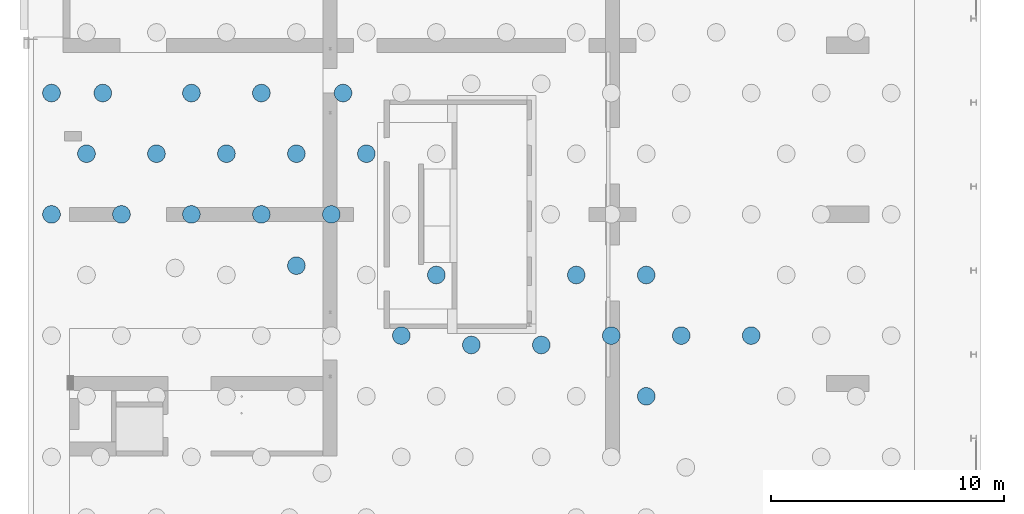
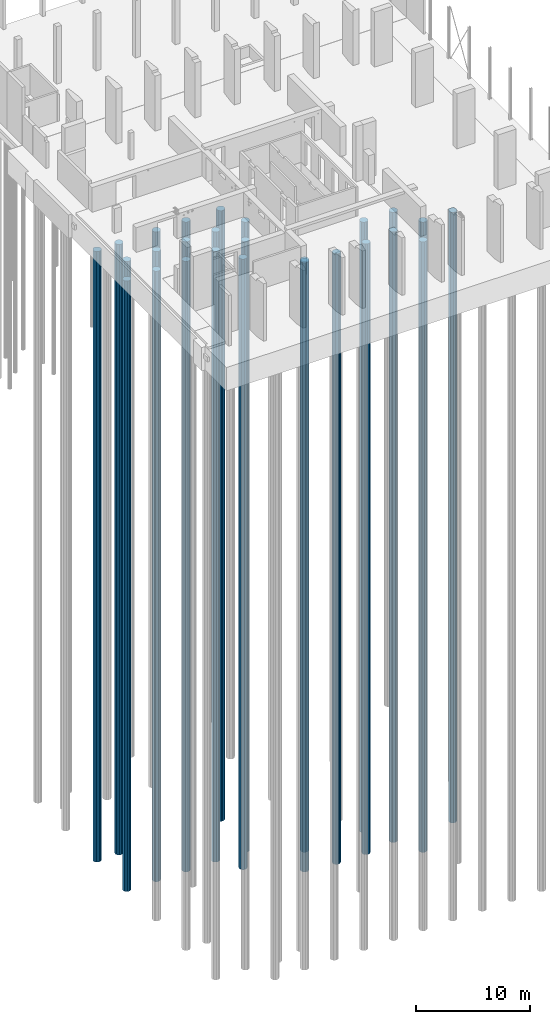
# One storey, part 3 of 26: 26 piles.
"""IFC2X3 building model written with IfcOpenShell, lengths in millimetres."""

from ifc_helpers import new_model, entity, si_unit, converted_unit, derived_unit, direction, frame, origin, place, context, subcontext, project, spatial, polyline, outline, extrude, material, element, save


model = new_model("IFC2X3")

# Units and contexts
model_context = context("Model", 3, precision=0.01, world=origin(), true_north=direction((6.12303176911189e-17, 1.0)))
body_context = subcontext(model_context, "Body", "Model", "MODEL_VIEW")
ifc_project = project(units=[si_unit("LENGTHUNIT", "METRE", prefix="MILLI"), si_unit("AREAUNIT", "SQUARE_METRE"), si_unit("VOLUMEUNIT", "CUBIC_METRE"), converted_unit("PLANEANGLEUNIT", "DEGREE", entity("IfcRatioMeasure", 0.0174532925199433), si_unit("PLANEANGLEUNIT", "RADIAN"), dimensions=[0, 0, 0, 0, 0, 0, 0]), si_unit("MASSUNIT", "GRAM", prefix="KILO"), derived_unit("MASSDENSITYUNIT", [(si_unit("MASSUNIT", "GRAM", prefix="KILO"), 1), (si_unit("LENGTHUNIT", "METRE"), -3)]), si_unit("TIMEUNIT", "SECOND"), si_unit("FREQUENCYUNIT", "HERTZ"), si_unit("THERMODYNAMICTEMPERATUREUNIT", "DEGREE_CELSIUS"), derived_unit("THERMALTRANSMITTANCEUNIT", [(si_unit("MASSUNIT", "GRAM", prefix="KILO"), 1), (si_unit("THERMODYNAMICTEMPERATUREUNIT", "KELVIN"), -1), (si_unit("TIMEUNIT", "SECOND"), -3)]), derived_unit("VOLUMETRICFLOWRATEUNIT", [(si_unit("LENGTHUNIT", "METRE"), 3), (si_unit("TIMEUNIT", "SECOND"), -1)]), si_unit("ELECTRICCURRENTUNIT", "AMPERE"), si_unit("ELECTRICVOLTAGEUNIT", "VOLT"), si_unit("POWERUNIT", "WATT"), si_unit("FORCEUNIT", "NEWTON", prefix="KILO"), si_unit("ILLUMINANCEUNIT", "LUX"), si_unit("LUMINOUSFLUXUNIT", "LUMEN"), si_unit("LUMINOUSINTENSITYUNIT", "CANDELA"), derived_unit("USERDEFINED", [(si_unit("MASSUNIT", "GRAM", prefix="KILO"), -1), (si_unit("LENGTHUNIT", "METRE"), -2), (si_unit("TIMEUNIT", "SECOND"), 3), (si_unit("LUMINOUSFLUXUNIT", "LUMEN"), 1)]), derived_unit("LINEARVELOCITYUNIT", [(si_unit("LENGTHUNIT", "METRE"), 1), (si_unit("TIMEUNIT", "SECOND"), -1)]), si_unit("PRESSUREUNIT", "PASCAL"), derived_unit("USERDEFINED", [(si_unit("LENGTHUNIT", "METRE"), -2), (si_unit("MASSUNIT", "GRAM", prefix="KILO"), 1), (si_unit("TIMEUNIT", "SECOND"), -2)])], contexts=[model_context])

# Site, building, storey
site_placement = place(None, origin())
site = spatial("IfcSite", under=ifc_project, at=site_placement, Name="Default", CompositionType="ELEMENT")
building_placement = place(site_placement, origin())
building = spatial("IfcBuilding", under=site, at=building_placement, Name="niet gebruiken", CompositionType="ELEMENT")
storey_placement = place(building_placement, origin())
storey = spatial("IfcBuildingStorey", under=building, at=storey_placement, Name="00 begane grond", CompositionType="ELEMENT", Elevation=0.0)

# Piles
ifc_material = material(Name="NLRS_f2_beton ihwg")
pile_1_placement = place(storey_placement, origin())
element("IfcPile", 1, at=pile_1_placement, inside=storey, material=ifc_material, Name="NLRS_17.12_SFO_TLB_funderingspaal grondverdringend_gen:Tubex_r762/950", ObjectType="NLRS_17.12_SFO_TLB_funderingspaal grondverdringend_gen:Tubex_r762/950", context=body_context, shape_type="SweptSolid", body=[
    extrude(outline(polyline([(-33.2063379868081, -379.550179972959), (33.2063379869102, -379.550179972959), (161.017557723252, -345.303266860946), (269.407683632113, -269.407683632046), (345.303266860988, -161.01755772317), (379.550179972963, -33.2063379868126), (368.017739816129, 98.6100561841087), (312.096928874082, 218.532622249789), (218.532622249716, 312.096928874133), (98.610056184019, 368.017739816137), (33.2063379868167, 379.550179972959), (-33.2063379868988, 379.550179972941), (-161.017557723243, 345.303266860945), (-269.4076836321, 269.407683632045), (-345.303266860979, 161.017557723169), (-379.550179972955, 33.2063379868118), (-368.01773981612, -98.6100561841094), (-312.096928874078, -218.532622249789), (-218.532622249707, -312.096928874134), (-98.6100561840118, -368.017739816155), (-33.2063379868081, -379.550179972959)])), frame((136250.0, 22700.0, -68100.0), z_axis=(0.0, 0.0, 1.0), x_axis=(0.087155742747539, -0.996194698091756, 0.0)), (0.0, 0.0, 1.0), 65380.0),
])
pile_2_placement = place(storey_placement, origin())
element("IfcPile", 2, at=pile_2_placement, inside=storey, material=ifc_material, Name="NLRS_17.12_SFO_TLB_funderingspaal grondverdringend_gen:Tubex_r762/950", ObjectType="NLRS_17.12_SFO_TLB_funderingspaal grondverdringend_gen:Tubex_r762/950", context=body_context, shape_type="SweptSolid", body=[
    extrude(outline(polyline([(-33.2063379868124, -379.550179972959), (33.2063379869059, -379.550179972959), (161.017557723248, -345.303266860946), (269.407683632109, -269.407683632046), (345.303266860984, -161.01755772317), (379.550179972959, -33.2063379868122), (368.017739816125, 98.610056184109), (312.096928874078, 218.532622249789), (218.532622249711, 312.096928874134), (98.6100561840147, 368.017739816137), (33.2063379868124, 379.550179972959), (-33.2063379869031, 379.550179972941), (-161.017557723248, 345.303266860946), (-269.407683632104, 269.407683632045), (-345.303266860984, 161.01755772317), (-379.550179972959, 33.2063379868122), (-368.017739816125, -98.610056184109), (-312.096928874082, -218.532622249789), (-218.532622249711, -312.096928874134), (-98.6100561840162, -368.017739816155), (-33.2063379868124, -379.550179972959)])), frame((132750.0, 22700.0, -68100.0), z_axis=(0.0, 0.0, 1.0), x_axis=(0.087155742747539, -0.996194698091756, 0.0)), (0.0, 0.0, 1.0), 65380.0),
])
pile_3_placement = place(storey_placement, origin())
element("IfcPile", 3, at=pile_3_placement, inside=storey, material=ifc_material, Name="NLRS_17.12_SFO_TLB_funderingspaal grondverdringend_gen:Tubex_r762/950", ObjectType="NLRS_17.12_SFO_TLB_funderingspaal grondverdringend_gen:Tubex_r762/950", context=body_context, shape_type="SweptSolid", body=[
    extrude(outline(polyline([(-33.2063379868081, -379.550179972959), (33.2063379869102, -379.550179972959), (161.017557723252, -345.303266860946), (269.407683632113, -269.407683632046), (345.303266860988, -161.01755772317), (379.550179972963, -33.2063379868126), (368.017739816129, 98.6100561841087), (312.096928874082, 218.532622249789), (218.532622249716, 312.096928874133), (98.610056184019, 368.017739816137), (33.2063379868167, 379.550179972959), (-33.2063379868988, 379.550179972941), (-161.017557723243, 345.303266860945), (-269.4076836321, 269.407683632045), (-345.303266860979, 161.017557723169), (-379.550179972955, 33.2063379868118), (-368.01773981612, -98.6100561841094), (-312.096928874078, -218.532622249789), (-218.532622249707, -312.096928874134), (-98.6100561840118, -368.017739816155), (-33.2063379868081, -379.550179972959)])), frame((129750.0, 22700.0, -68100.0), z_axis=(0.0, 0.0, 1.0), x_axis=(0.087155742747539, -0.996194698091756, 0.0)), (0.0, 0.0, 1.0), 65380.0),
])
pile_4_placement = place(storey_placement, origin())
element("IfcPile", 4, at=pile_4_placement, inside=storey, material=ifc_material, Name="NLRS_17.12_SFO_TLB_funderingspaal grondverdringend_gen:Tubex_r762/950", ObjectType="NLRS_17.12_SFO_TLB_funderingspaal grondverdringend_gen:Tubex_r762/950", context=body_context, shape_type="SweptSolid", body=[
    extrude(outline(polyline([(-33.2063379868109, -379.550179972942), (33.2063379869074, -379.550179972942), (161.017557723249, -345.303266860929), (269.40768363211, -269.407683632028), (345.303266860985, -161.017557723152), (379.550179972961, -33.2063379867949), (368.017739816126, 98.6100561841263), (312.096928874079, 218.532622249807), (218.532622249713, 312.096928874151), (98.6100561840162, 368.017739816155), (33.2063379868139, 379.550179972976), (-33.2063379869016, 379.550179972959), (-161.017557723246, 345.303266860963), (-269.407683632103, 269.407683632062), (-345.303266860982, 161.017557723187), (-379.550179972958, 33.2063379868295), (-368.017739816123, -98.6100561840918), (-312.09692887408, -218.532622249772), (-218.53262224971, -312.096928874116), (-98.6100561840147, -368.017739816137), (-33.2063379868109, -379.550179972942)])), frame((125950.0, 22700.0, -68100.0), z_axis=(0.0, 0.0, 1.0), x_axis=(0.087155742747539, -0.996194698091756, 0.0)), (0.0, 0.0, 1.0), 65380.0),
])
pile_5_placement = place(storey_placement, origin())
element("IfcPile", 5, at=pile_5_placement, inside=storey, material=ifc_material, Name="NLRS_17.12_SFO_TLB_funderingspaal grondverdringend_gen:Tubex_r762/950", ObjectType="NLRS_17.12_SFO_TLB_funderingspaal grondverdringend_gen:Tubex_r762/950", context=body_context, shape_type="SweptSolid", body=[
    extrude(outline(polyline([(-33.2063379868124, -379.550179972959), (33.2063379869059, -379.550179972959), (161.017557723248, -345.303266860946), (269.407683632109, -269.407683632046), (345.303266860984, -161.01755772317), (379.550179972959, -33.2063379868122), (368.017739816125, 98.610056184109), (312.096928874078, 218.532622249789), (218.532622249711, 312.096928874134), (98.6100561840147, 368.017739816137), (33.2063379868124, 379.550179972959), (-33.2063379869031, 379.550179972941), (-161.017557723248, 345.303266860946), (-269.407683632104, 269.407683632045), (-345.303266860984, 161.01755772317), (-379.550179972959, 33.2063379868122), (-368.017739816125, -98.610056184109), (-312.096928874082, -218.532622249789), (-218.532622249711, -312.096928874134), (-98.6100561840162, -368.017739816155), (-33.2063379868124, -379.550179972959)])), frame((123750.0, 22700.0, -68100.0), z_axis=(0.0, 0.0, 1.0), x_axis=(0.087155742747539, -0.996194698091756, 0.0)), (0.0, 0.0, 1.0), 65380.0),
])
pile_6_placement = place(storey_placement, origin())
element("IfcPile", 6, at=pile_6_placement, inside=storey, material=ifc_material, Name="NLRS_17.12_SFO_TLB_funderingspaal grondverdringend_gen:Tubex_r762/950", ObjectType="NLRS_17.12_SFO_TLB_funderingspaal grondverdringend_gen:Tubex_r762/950", context=body_context, shape_type="SweptSolid", body=[
    extrude(outline(polyline([(-33.2063379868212, -379.55017997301), (33.206337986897, -379.55017997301), (161.017557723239, -345.303266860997), (269.4076836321, -269.407683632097), (345.303266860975, -161.017557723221), (379.55017997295, -33.2063379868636), (368.017739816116, 98.6100561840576), (312.096928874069, 218.532622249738), (218.532622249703, 312.096928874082), (98.6100561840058, 368.017739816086), (33.2063379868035, 379.550179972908), (-33.2063379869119, 379.55017997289), (-161.017557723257, 345.303266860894), (-269.407683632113, 269.407683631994), (-345.303266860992, 161.017557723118), (-379.550179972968, 33.2063379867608), (-368.017739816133, -98.6100561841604), (-312.096928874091, -218.53262224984), (-218.53262224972, -312.096928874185), (-98.610056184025, -368.017739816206), (-33.2063379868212, -379.55017997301)])), frame((125250.0, 20100.0, -68100.0), z_axis=(0.0, 0.0, 1.0), x_axis=(0.087155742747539, -0.996194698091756, 0.0)), (0.0, 0.0, 1.0), 65380.0),
])
pile_7_placement = place(storey_placement, origin())
element("IfcPile", 7, at=pile_7_placement, inside=storey, material=ifc_material, Name="NLRS_17.12_SFO_TLB_funderingspaal grondverdringend_gen:Tubex_r762/950", ObjectType="NLRS_17.12_SFO_TLB_funderingspaal grondverdringend_gen:Tubex_r762/950", context=body_context, shape_type="SweptSolid", body=[
    extrude(outline(polyline([(-33.2063379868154, -379.550179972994), (33.2063379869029, -379.550179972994), (161.017557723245, -345.30326686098), (269.407683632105, -269.40768363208), (345.303266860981, -161.017557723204), (379.550179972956, -33.2063379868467), (368.017739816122, 98.6100561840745), (312.096928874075, 218.532622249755), (218.532622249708, 312.096928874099), (98.6100561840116, 368.017739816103), (33.2063379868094, 379.550179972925), (-33.2063379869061, 379.550179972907), (-161.017557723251, 345.303266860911), (-269.407683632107, 269.407683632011), (-345.303266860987, 161.017557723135), (-379.550179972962, 33.2063379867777), (-368.017739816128, -98.6100561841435), (-312.096928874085, -218.532622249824), (-218.532622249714, -312.096928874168), (-98.6100561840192, -368.017739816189), (-33.2063379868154, -379.550179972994)])), frame((131250.0, 20100.0, -68100.0), z_axis=(0.0, 0.0, 1.0), x_axis=(0.087155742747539, -0.996194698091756, 0.0)), (0.0, 0.0, 1.0), 65380.0),
])
pile_8_placement = place(storey_placement, origin())
element("IfcPile", 8, at=pile_8_placement, inside=storey, material=ifc_material, Name="NLRS_17.12_SFO_TLB_funderingspaal grondverdringend_gen:Tubex_r762/950", ObjectType="NLRS_17.12_SFO_TLB_funderingspaal grondverdringend_gen:Tubex_r762/950", context=body_context, shape_type="SweptSolid", body=[
    extrude(outline(polyline([(-33.2063379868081, -379.550179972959), (33.2063379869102, -379.550179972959), (161.017557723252, -345.303266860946), (269.407683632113, -269.407683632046), (345.303266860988, -161.01755772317), (379.550179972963, -33.2063379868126), (368.017739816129, 98.6100561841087), (312.096928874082, 218.532622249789), (218.532622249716, 312.096928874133), (98.610056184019, 368.017739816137), (33.2063379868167, 379.550179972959), (-33.2063379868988, 379.550179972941), (-161.017557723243, 345.303266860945), (-269.4076836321, 269.407683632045), (-345.303266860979, 161.017557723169), (-379.550179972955, 33.2063379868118), (-368.01773981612, -98.6100561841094), (-312.096928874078, -218.532622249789), (-218.532622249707, -312.096928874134), (-98.6100561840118, -368.017739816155), (-33.2063379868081, -379.550179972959)])), frame((134250.0, 20100.0, -68100.0), z_axis=(0.0, 0.0, 1.0), x_axis=(0.087155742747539, -0.996194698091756, 0.0)), (0.0, 0.0, 1.0), 65380.0),
])
pile_9_placement = place(storey_placement, origin())
element("IfcPile", 9, at=pile_9_placement, inside=storey, material=ifc_material, Name="NLRS_17.12_SFO_TLB_funderingspaal grondverdringend_gen:Tubex_r762/950", ObjectType="NLRS_17.12_SFO_TLB_funderingspaal grondverdringend_gen:Tubex_r762/950", context=body_context, shape_type="SweptSolid", body=[
    extrude(outline(polyline([(-33.2063379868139, -379.550179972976), (33.2063379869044, -379.550179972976), (161.017557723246, -345.303266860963), (269.407683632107, -269.407683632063), (345.303266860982, -161.017557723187), (379.550179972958, -33.2063379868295), (368.017739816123, 98.6100561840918), (312.096928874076, 218.532622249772), (218.53262224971, 312.096928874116), (98.6100561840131, 368.01773981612), (33.2063379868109, 379.550179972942), (-33.2063379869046, 379.550179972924), (-161.017557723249, 345.303266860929), (-269.407683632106, 269.407683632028), (-345.303266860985, 161.017557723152), (-379.550179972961, 33.2063379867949), (-368.017739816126, -98.6100561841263), (-312.096928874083, -218.532622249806), (-218.532622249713, -312.096928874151), (-98.6100561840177, -368.017739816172), (-33.2063379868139, -379.550179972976)])), frame((137250.0, 20100.0, -68100.0), z_axis=(0.0, 0.0, 1.0), x_axis=(0.087155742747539, -0.996194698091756, 0.0)), (0.0, 0.0, 1.0), 65380.0),
])
pile_10_placement = place(storey_placement, origin())
element("IfcPile", 10, at=pile_10_placement, inside=storey, material=ifc_material, Name="NLRS_17.12_SFO_TLB_funderingspaal grondverdringend_gen:Tubex_r762/950", ObjectType="NLRS_17.12_SFO_TLB_funderingspaal grondverdringend_gen:Tubex_r762/950", context=body_context, shape_type="SweptSolid", body=[
    extrude(outline(polyline([(-33.2063379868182, -379.550179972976), (33.2063379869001, -379.550179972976), (161.017557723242, -345.303266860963), (269.407683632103, -269.407683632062), (345.303266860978, -161.017557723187), (379.550179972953, -33.2063379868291), (368.017739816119, 98.6100561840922), (312.096928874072, 218.532622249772), (218.532622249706, 312.096928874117), (98.6100561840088, 368.01773981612), (33.2063379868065, 379.550179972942), (-33.2063379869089, 379.550179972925), (-161.017557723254, 345.303266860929), (-269.40768363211, 269.407683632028), (-345.303266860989, 161.017557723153), (-379.550179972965, 33.2063379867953), (-368.01773981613, -98.6100561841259), (-312.096928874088, -218.532622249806), (-218.532622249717, -312.09692887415), (-98.610056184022, -368.017739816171), (-33.2063379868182, -379.550179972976)])), frame((128250.0, 20100.0, -68100.0), z_axis=(0.0, 0.0, 1.0), x_axis=(0.087155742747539, -0.996194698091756, 0.0)), (0.0, 0.0, 1.0), 65380.0),
])
pile_11_placement = place(storey_placement, origin())
element("IfcPile", 11, at=pile_11_placement, inside=storey, material=ifc_material, Name="NLRS_17.12_SFO_TLB_funderingspaal grondverdringend_gen:Tubex_r762/950", ObjectType="NLRS_17.12_SFO_TLB_funderingspaal grondverdringend_gen:Tubex_r762/950", context=body_context, shape_type="SweptSolid", body=[
    extrude(outline(polyline([(-33.2063379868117, -379.550179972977), (33.2063379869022, -379.550179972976), (161.017557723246, -345.303266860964), (269.407683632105, -269.407683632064), (345.303266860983, -161.017557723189), (379.55017997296, -33.2063379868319), (368.017739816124, 98.6100561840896), (312.096928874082, 218.53262224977), (218.532622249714, 312.096928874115), (98.6100561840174, 368.017739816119), (33.2063379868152, 379.550179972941), (-33.2063379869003, 379.550179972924), (-161.017557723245, 345.303266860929), (-269.407683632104, 269.407683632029), (-345.30326686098, 161.017557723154), (-379.550179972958, 33.206337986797), (-368.017739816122, -98.6100561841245), (-312.09692887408, -218.532622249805), (-218.532622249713, -312.09692887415), (-98.6100561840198, -368.017739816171), (-33.2063379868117, -379.550179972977)])), frame((135750.0, 17500.0, -68100.0), z_axis=(0.0, 0.0, 1.0), x_axis=(0.0871557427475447, -0.996194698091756, 0.0)), (0.0, 0.0, 1.0), 65380.0),
])
pile_12_placement = place(storey_placement, origin())
element("IfcPile", 12, at=pile_12_placement, inside=storey, material=ifc_material, Name="NLRS_17.12_SFO_TLB_funderingspaal grondverdringend_gen:Tubex_r762/950", ObjectType="NLRS_17.12_SFO_TLB_funderingspaal grondverdringend_gen:Tubex_r762/950", context=body_context, shape_type="SweptSolid", body=[
    extrude(outline(polyline([(-33.2063379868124, -379.550179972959), (33.2063379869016, -379.550179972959), (161.017557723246, -345.303266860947), (269.407683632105, -269.407683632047), (345.303266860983, -161.017557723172), (379.550179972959, -33.2063379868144), (368.017739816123, 98.6100561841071), (312.096928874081, 218.532622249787), (218.532622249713, 312.096928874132), (98.6100561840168, 368.017739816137), (33.2063379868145, 379.550179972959), (-33.2063379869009, 379.550179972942), (-161.017557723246, 345.303266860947), (-269.407683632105, 269.407683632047), (-345.30326686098, 161.017557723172), (-379.550179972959, 33.2063379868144), (-368.017739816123, -98.6100561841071), (-312.096928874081, -218.532622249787), (-218.532622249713, -312.096928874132), (-98.6100561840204, -368.017739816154), (-33.2063379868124, -379.550179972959)])), frame((132750.0, 17500.0, -68100.0), z_axis=(0.0, 0.0, 1.0), x_axis=(0.0871557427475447, -0.996194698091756, 0.0)), (0.0, 0.0, 1.0), 65380.0),
])
pile_13_placement = place(storey_placement, origin())
element("IfcPile", 13, at=pile_13_placement, inside=storey, material=ifc_material, Name="NLRS_17.12_SFO_TLB_funderingspaal grondverdringend_gen:Tubex_r762/950", ObjectType="NLRS_17.12_SFO_TLB_funderingspaal grondverdringend_gen:Tubex_r762/950", context=body_context, shape_type="SweptSolid", body=[
    extrude(outline(polyline([(-33.2063379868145, -379.550179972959), (33.2063379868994, -379.550179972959), (161.017557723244, -345.303266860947), (269.407683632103, -269.407683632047), (345.30326686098, -161.017557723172), (379.550179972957, -33.2063379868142), (368.017739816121, 98.6100561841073), (312.096928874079, 218.532622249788), (218.532622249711, 312.096928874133), (98.6100561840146, 368.017739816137), (33.2063379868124, 379.550179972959), (-33.2063379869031, 379.550179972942), (-161.017557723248, 345.303266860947), (-269.407683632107, 269.407683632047), (-345.303266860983, 161.017557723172), (-379.550179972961, 33.2063379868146), (-368.017739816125, -98.6100561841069), (-312.096928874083, -218.532622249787), (-218.532622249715, -312.096928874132), (-98.6100561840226, -368.017739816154), (-33.2063379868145, -379.550179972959)])), frame((129750.0, 17500.0, -68100.0), z_axis=(0.0, 0.0, 1.0), x_axis=(0.0871557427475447, -0.996194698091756, 0.0)), (0.0, 0.0, 1.0), 65380.0),
])
pile_14_placement = place(storey_placement, origin())
element("IfcPile", 14, at=pile_14_placement, inside=storey, material=ifc_material, Name="NLRS_17.12_SFO_TLB_funderingspaal grondverdringend_gen:Tubex_r762/950", ObjectType="NLRS_17.12_SFO_TLB_funderingspaal grondverdringend_gen:Tubex_r762/950", context=body_context, shape_type="SweptSolid", body=[
    extrude(outline(polyline([(-33.2063379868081, -379.550179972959), (33.2063379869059, -379.550179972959), (161.01755772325, -345.303266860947), (269.407683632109, -269.407683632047), (345.303266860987, -161.017557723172), (379.550179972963, -33.2063379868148), (368.017739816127, 98.6100561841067), (312.096928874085, 218.532622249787), (218.532622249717, 312.096928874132), (98.610056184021, 368.017739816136), (33.2063379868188, 379.550179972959), (-33.2063379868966, 379.550179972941), (-161.017557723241, 345.303266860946), (-269.4076836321, 269.407683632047), (-345.303266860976, 161.017557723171), (-379.550179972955, 33.206337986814), (-368.017739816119, -98.6100561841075), (-312.096928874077, -218.532622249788), (-218.532622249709, -312.096928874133), (-98.6100561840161, -368.017739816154), (-33.2063379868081, -379.550179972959)])), frame((126750.0, 17500.0, -68100.0), z_axis=(0.0, 0.0, 1.0), x_axis=(0.0871557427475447, -0.996194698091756, 0.0)), (0.0, 0.0, 1.0), 65380.0),
])
pile_15_placement = place(storey_placement, origin())
element("IfcPile", 15, at=pile_15_placement, inside=storey, material=ifc_material, Name="NLRS_17.12_SFO_TLB_funderingspaal grondverdringend_gen:Tubex_r762/950", ObjectType="NLRS_17.12_SFO_TLB_funderingspaal grondverdringend_gen:Tubex_r762/950", context=body_context, shape_type="SweptSolid", body=[
    extrude(outline(polyline([(-33.2063379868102, -379.550179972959), (33.2063379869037, -379.550179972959), (161.017557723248, -345.303266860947), (269.407683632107, -269.407683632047), (345.303266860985, -161.017557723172), (379.550179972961, -33.2063379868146), (368.017739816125, 98.6100561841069), (312.096928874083, 218.532622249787), (218.532622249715, 312.096928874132), (98.6100561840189, 368.017739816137), (33.2063379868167, 379.550179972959), (-33.2063379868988, 379.550179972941), (-161.017557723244, 345.303266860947), (-269.407683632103, 269.407683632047), (-345.303266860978, 161.017557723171), (-379.550179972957, 33.2063379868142), (-368.017739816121, -98.6100561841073), (-312.096928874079, -218.532622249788), (-218.532622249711, -312.096928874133), (-98.6100561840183, -368.017739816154), (-33.2063379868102, -379.550179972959)])), frame((123750.0, 17500.0, -68100.0), z_axis=(0.0, 0.0, 1.0), x_axis=(0.0871557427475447, -0.996194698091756, 0.0)), (0.0, 0.0, 1.0), 65380.0),
])
pile_16_placement = place(storey_placement, origin())
element("IfcPile", 16, at=pile_16_placement, inside=storey, material=ifc_material, Name="NLRS_17.12_SFO_TLB_funderingspaal grondverdringend_gen:Tubex_r762/950", ObjectType="NLRS_17.12_SFO_TLB_funderingspaal grondverdringend_gen:Tubex_r762/950", context=body_context, shape_type="SweptSolid", body=[
    extrude(outline(polyline([(-33.2063379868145, -379.550179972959), (33.2063379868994, -379.550179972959), (161.017557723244, -345.303266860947), (269.407683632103, -269.407683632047), (345.30326686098, -161.017557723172), (379.550179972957, -33.2063379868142), (368.017739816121, 98.6100561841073), (312.096928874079, 218.532622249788), (218.532622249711, 312.096928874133), (98.6100561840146, 368.017739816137), (33.2063379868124, 379.550179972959), (-33.2063379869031, 379.550179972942), (-161.017557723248, 345.303266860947), (-269.407683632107, 269.407683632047), (-345.303266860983, 161.017557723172), (-379.550179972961, 33.2063379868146), (-368.017739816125, -98.6100561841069), (-312.096928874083, -218.532622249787), (-218.532622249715, -312.096928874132), (-98.6100561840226, -368.017739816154), (-33.2063379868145, -379.550179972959)])), frame((134250.0, 15300.0, -68100.0), z_axis=(0.0, 0.0, 1.0), x_axis=(0.0871557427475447, -0.996194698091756, 0.0)), (0.0, 0.0, 1.0), 65380.0),
])
pile_17_placement = place(storey_placement, origin())
element("IfcPile", 17, at=pile_17_placement, inside=storey, material=ifc_material, Name="NLRS_17.12_SFO_TLB_funderingspaal grondverdringend_gen:Tubex_r762/950", ObjectType="NLRS_17.12_SFO_TLB_funderingspaal grondverdringend_gen:Tubex_r762/950", context=body_context, shape_type="SweptSolid", body=[
    extrude(outline(polyline([(-33.2063379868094, -379.550179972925), (33.2063379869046, -379.550179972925), (161.017557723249, -345.303266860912), (269.407683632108, -269.407683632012), (345.303266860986, -161.017557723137), (379.550179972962, -33.2063379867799), (368.017739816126, 98.6100561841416), (312.096928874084, 218.532622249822), (218.532622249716, 312.096928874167), (98.6100561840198, 368.017739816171), (33.2063379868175, 379.550179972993), (-33.2063379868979, 379.550179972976), (-161.017557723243, 345.303266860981), (-269.407683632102, 269.407683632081), (-345.303266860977, 161.017557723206), (-379.550179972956, 33.206337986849), (-368.01773981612, -98.6100561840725), (-312.096928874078, -218.532622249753), (-218.53262224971, -312.096928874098), (-98.6100561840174, -368.017739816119), (-33.2063379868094, -379.550179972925)])), frame((140250.0, 14900.0, -68100.0), z_axis=(0.0, 0.0, 1.0), x_axis=(0.0871557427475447, -0.996194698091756, 0.0)), (0.0, 0.0, 1.0), 63130.0),
])
pile_18_placement = place(storey_placement, origin())
element("IfcPile", 18, at=pile_18_placement, inside=storey, material=ifc_material, Name="NLRS_17.12_SFO_TLB_funderingspaal grondverdringend_gen:Tubex_r762/950", ObjectType="NLRS_17.12_SFO_TLB_funderingspaal grondverdringend_gen:Tubex_r762/950", context=body_context, shape_type="SweptSolid", body=[
    extrude(outline(polyline([(-33.2063379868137, -379.550179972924), (33.2063379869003, -379.550179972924), (161.017557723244, -345.303266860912), (269.407683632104, -269.407683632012), (345.303266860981, -161.017557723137), (379.550179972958, -33.2063379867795), (368.017739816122, 98.610056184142), (312.09692887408, 218.532622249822), (218.532622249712, 312.096928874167), (98.6100561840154, 368.017739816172), (33.2063379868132, 379.550179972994), (-33.2063379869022, 379.550179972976), (-161.017557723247, 345.303266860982), (-269.407683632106, 269.407683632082), (-345.303266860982, 161.017557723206), (-379.55017997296, 33.2063379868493), (-368.017739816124, -98.6100561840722), (-312.096928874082, -218.532622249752), (-218.532622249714, -312.096928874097), (-98.6100561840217, -368.017739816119), (-33.2063379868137, -379.550179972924)])), frame((146250.0, 14900.0, -68100.0), z_axis=(0.0, 0.0, 1.0), x_axis=(0.0871557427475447, -0.996194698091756, 0.0)), (0.0, 0.0, 1.0), 65380.0),
])
pile_19_placement = place(storey_placement, origin())
element("IfcPile", 19, at=pile_19_placement, inside=storey, material=ifc_material, Name="NLRS_17.12_SFO_TLB_funderingspaal grondverdringend_gen:Tubex_r762/950", ObjectType="NLRS_17.12_SFO_TLB_funderingspaal grondverdringend_gen:Tubex_r762/950", context=body_context, shape_type="SweptSolid", body=[
    extrude(outline(polyline([(-33.2063379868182, -379.550179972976), (33.2063379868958, -379.550179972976), (161.01755772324, -345.303266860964), (269.407683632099, -269.407683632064), (345.303266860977, -161.017557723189), (379.550179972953, -33.2063379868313), (368.017739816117, 98.6100561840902), (312.096928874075, 218.53262224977), (218.532622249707, 312.096928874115), (98.6100561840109, 368.01773981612), (33.2063379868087, 379.550179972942), (-33.2063379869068, 379.550179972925), (-161.017557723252, 345.30326686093), (-269.407683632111, 269.40768363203), (-345.303266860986, 161.017557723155), (-379.550179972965, 33.2063379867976), (-368.017739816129, -98.610056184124), (-312.096928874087, -218.532622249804), (-218.532622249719, -312.096928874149), (-98.6100561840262, -368.017739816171), (-33.2063379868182, -379.550179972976)])), frame((149250.0, 14900.0, -68100.0), z_axis=(0.0, 0.0, 1.0), x_axis=(0.0871557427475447, -0.996194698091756, 0.0)), (0.0, 0.0, 1.0), 65380.0),
])
pile_20_placement = place(storey_placement, origin())
element("IfcPile", 20, at=pile_20_placement, inside=storey, material=ifc_material, Name="NLRS_17.12_SFO_TLB_funderingspaal grondverdringend_gen:Tubex_r762/950", ObjectType="NLRS_17.12_SFO_TLB_funderingspaal grondverdringend_gen:Tubex_r762/950", context=body_context, shape_type="SweptSolid", body=[
    extrude(outline(polyline([(-33.2063379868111, -379.550179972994), (33.2063379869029, -379.550179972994), (161.017557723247, -345.303266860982), (269.407683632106, -269.407683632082), (345.303266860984, -161.017557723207), (379.55017997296, -33.2063379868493), (368.017739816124, 98.6100561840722), (312.096928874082, 218.532622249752), (218.532622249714, 312.096928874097), (98.610056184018, 368.017739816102), (33.2063379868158, 379.550179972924), (-33.2063379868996, 379.550179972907), (-161.017557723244, 345.303266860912), (-269.407683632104, 269.407683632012), (-345.303266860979, 161.017557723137), (-379.550179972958, 33.2063379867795), (-368.017739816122, -98.610056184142), (-312.09692887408, -218.532622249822), (-218.532622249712, -312.096928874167), (-98.6100561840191, -368.017739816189), (-33.2063379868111, -379.550179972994)])), frame((153750.0, 12300.0, -68100.0), z_axis=(0.0, 0.0, 1.0), x_axis=(0.0871557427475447, -0.996194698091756, 0.0)), (0.0, 0.0, 1.0), 65380.0),
])
pile_21_placement = place(storey_placement, origin())
element("IfcPile", 21, at=pile_21_placement, inside=storey, material=ifc_material, Name="NLRS_17.12_SFO_TLB_funderingspaal grondverdringend_gen:Tubex_r762/950", ObjectType="NLRS_17.12_SFO_TLB_funderingspaal grondverdringend_gen:Tubex_r762/950", context=body_context, shape_type="SweptSolid", body=[
    extrude(outline(polyline([(-33.2063379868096, -379.550179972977), (33.2063379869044, -379.550179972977), (161.017557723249, -345.303266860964), (269.407683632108, -269.407683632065), (345.303266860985, -161.017557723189), (379.550179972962, -33.2063379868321), (368.017739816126, 98.6100561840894), (312.096928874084, 218.53262224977), (218.532622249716, 312.096928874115), (98.6100561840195, 368.017739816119), (33.2063379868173, 379.550179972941), (-33.2063379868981, 379.550179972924), (-161.017557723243, 345.303266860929), (-269.407683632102, 269.407683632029), (-345.303266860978, 161.017557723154), (-379.550179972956, 33.2063379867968), (-368.01773981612, -98.6100561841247), (-312.096928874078, -218.532622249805), (-218.53262224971, -312.09692887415), (-98.6100561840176, -368.017739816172), (-33.2063379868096, -379.550179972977)])), frame((150750.0, 12300.0, -68100.0), z_axis=(0.0, 0.0, 1.0), x_axis=(0.0871557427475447, -0.996194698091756, 0.0)), (0.0, 0.0, 1.0), 65380.0),
])
pile_22_placement = place(storey_placement, origin())
element("IfcPile", 22, at=pile_22_placement, inside=storey, material=ifc_material, Name="NLRS_17.12_SFO_TLB_funderingspaal grondverdringend_gen:Tubex_r762/950", ObjectType="NLRS_17.12_SFO_TLB_funderingspaal grondverdringend_gen:Tubex_r762/950", context=body_context, shape_type="SweptSolid", body=[
    extrude(outline(polyline([(-33.2063379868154, -379.550179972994), (33.2063379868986, -379.550179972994), (161.017557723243, -345.303266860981), (269.407683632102, -269.407683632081), (345.30326686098, -161.017557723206), (379.550179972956, -33.206337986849), (368.01773981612, 98.6100561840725), (312.096928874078, 218.532622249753), (218.53262224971, 312.096928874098), (98.6100561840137, 368.017739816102), (33.2063379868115, 379.550179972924), (-33.206337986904, 379.550179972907), (-161.017557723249, 345.303266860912), (-269.407683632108, 269.407683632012), (-345.303266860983, 161.017557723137), (-379.550179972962, 33.2063379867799), (-368.017739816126, -98.6100561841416), (-312.096928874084, -218.532622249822), (-218.532622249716, -312.096928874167), (-98.6100561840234, -368.017739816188), (-33.2063379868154, -379.550179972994)])), frame((147750.0, 12300.0, -68100.0), z_axis=(0.0, 0.0, 1.0), x_axis=(0.0871557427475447, -0.996194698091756, 0.0)), (0.0, 0.0, 1.0), 65380.0),
])
pile_23_placement = place(storey_placement, origin())
element("IfcPile", 23, at=pile_23_placement, inside=storey, material=ifc_material, Name="NLRS_17.12_SFO_TLB_funderingspaal grondverdringend_gen:Tubex_r762/950", ObjectType="NLRS_17.12_SFO_TLB_funderingspaal grondverdringend_gen:Tubex_r762/950", context=body_context, shape_type="SweptSolid", body=[
    extrude(outline(polyline([(-33.2063379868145, -379.550179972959), (33.2063379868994, -379.550179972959), (161.017557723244, -345.303266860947), (269.407683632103, -269.407683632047), (345.30326686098, -161.017557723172), (379.550179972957, -33.2063379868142), (368.017739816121, 98.6100561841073), (312.096928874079, 218.532622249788), (218.532622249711, 312.096928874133), (98.6100561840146, 368.017739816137), (33.2063379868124, 379.550179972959), (-33.2063379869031, 379.550179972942), (-161.017557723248, 345.303266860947), (-269.407683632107, 269.407683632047), (-345.303266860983, 161.017557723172), (-379.550179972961, 33.2063379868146), (-368.017739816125, -98.6100561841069), (-312.096928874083, -218.532622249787), (-218.532622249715, -312.096928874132), (-98.6100561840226, -368.017739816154), (-33.2063379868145, -379.550179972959)])), frame((144750.0, 11900.0, -68100.0), z_axis=(0.0, 0.0, 1.0), x_axis=(0.0871557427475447, -0.996194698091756, 0.0)), (0.0, 0.0, 1.0), 65380.0),
])
pile_24_placement = place(storey_placement, origin())
element("IfcPile", 24, at=pile_24_placement, inside=storey, material=ifc_material, Name="NLRS_17.12_SFO_TLB_funderingspaal grondverdringend_gen:Tubex_r762/950", ObjectType="NLRS_17.12_SFO_TLB_funderingspaal grondverdringend_gen:Tubex_r762/950", context=body_context, shape_type="SweptSolid", body=[
    extrude(outline(polyline([(-33.2063379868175, -379.550179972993), (33.2063379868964, -379.550179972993), (161.017557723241, -345.303266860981), (269.4076836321, -269.407683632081), (345.303266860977, -161.017557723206), (379.550179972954, -33.2063379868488), (368.017739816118, 98.6100561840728), (312.096928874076, 218.532622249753), (218.532622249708, 312.096928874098), (98.6100561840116, 368.017739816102), (33.2063379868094, 379.550179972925), (-33.2063379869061, 379.550179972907), (-161.017557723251, 345.303266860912), (-269.40768363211, 269.407683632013), (-345.303266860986, 161.017557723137), (-379.550179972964, 33.2063379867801), (-368.017739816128, -98.6100561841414), (-312.096928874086, -218.532622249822), (-218.532622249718, -312.096928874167), (-98.6100561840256, -368.017739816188), (-33.2063379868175, -379.550179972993)])), frame((141750.0, 11900.0, -68100.0), z_axis=(0.0, 0.0, 1.0), x_axis=(0.0871557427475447, -0.996194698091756, 0.0)), (0.0, 0.0, 1.0), 65380.0),
])
pile_25_placement = place(storey_placement, origin())
element("IfcPile", 25, at=pile_25_placement, inside=storey, material=ifc_material, Name="NLRS_17.12_SFO_TLB_funderingspaal grondverdringend_gen:Tubex_r762/950", ObjectType="NLRS_17.12_SFO_TLB_funderingspaal grondverdringend_gen:Tubex_r762/950", context=body_context, shape_type="SweptSolid", body=[
    extrude(outline(polyline([(-33.2063379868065, -379.550179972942), (33.2063379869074, -379.550179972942), (161.017557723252, -345.30326686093), (269.407683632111, -269.40768363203), (345.303266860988, -161.017557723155), (379.550179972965, -33.2063379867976), (368.017739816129, 98.610056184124), (312.096928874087, 218.532622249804), (218.532622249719, 312.096928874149), (98.6100561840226, 368.017739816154), (33.2063379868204, 379.550179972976), (-33.2063379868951, 379.550179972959), (-161.01755772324, 345.303266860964), (-269.407683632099, 269.407683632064), (-345.303266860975, 161.017557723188), (-379.550179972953, 33.2063379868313), (-368.017739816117, -98.6100561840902), (-312.096928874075, -218.53262224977), (-218.532622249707, -312.096928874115), (-98.6100561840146, -368.017739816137), (-33.2063379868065, -379.550179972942)])), frame((138750.0, 12300.0, -68100.0), z_axis=(0.0, 0.0, 1.0), x_axis=(0.0871557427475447, -0.996194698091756, 0.0)), (0.0, 0.0, 1.0), 65380.0),
])
pile_26_placement = place(storey_placement, origin())
element("IfcPile", 26, at=pile_26_placement, inside=storey, material=ifc_material, Name="NLRS_17.12_SFO_TLB_funderingspaal grondverdringend_gen:Tubex_r762/950", ObjectType="NLRS_17.12_SFO_TLB_funderingspaal grondverdringend_gen:Tubex_r762/950", context=body_context, shape_type="SweptSolid", body=[
    extrude(outline(polyline([(-33.2063379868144, -379.550179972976), (33.2063379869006, -379.550179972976), (161.017557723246, -345.303266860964), (269.407683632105, -269.407683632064), (345.30326686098, -161.017557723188), (379.550179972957, -33.2063379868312), (368.017739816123, 98.6100561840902), (312.096928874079, 218.53262224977), (218.532622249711, 312.096928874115), (98.6100561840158, 368.01773981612), (33.2063379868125, 379.550179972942), (-33.206337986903, 379.550179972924), (-161.017557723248, 345.303266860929), (-269.407683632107, 269.407683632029), (-345.303266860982, 161.017557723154), (-379.55017997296, 33.2063379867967), (-368.017739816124, -98.6100561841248), (-312.096928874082, -218.532622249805), (-218.532622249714, -312.09692887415), (-98.6100561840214, -368.017739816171), (-33.2063379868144, -379.550179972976)])), frame((149250.0, 9700.0, -68100.0), z_axis=(0.0, 0.0, 1.0), x_axis=(0.0871557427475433, -0.996194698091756, 0.0)), (0.0, 0.0, 1.0), 65380.0),
])

save(model, "model.ifc")
